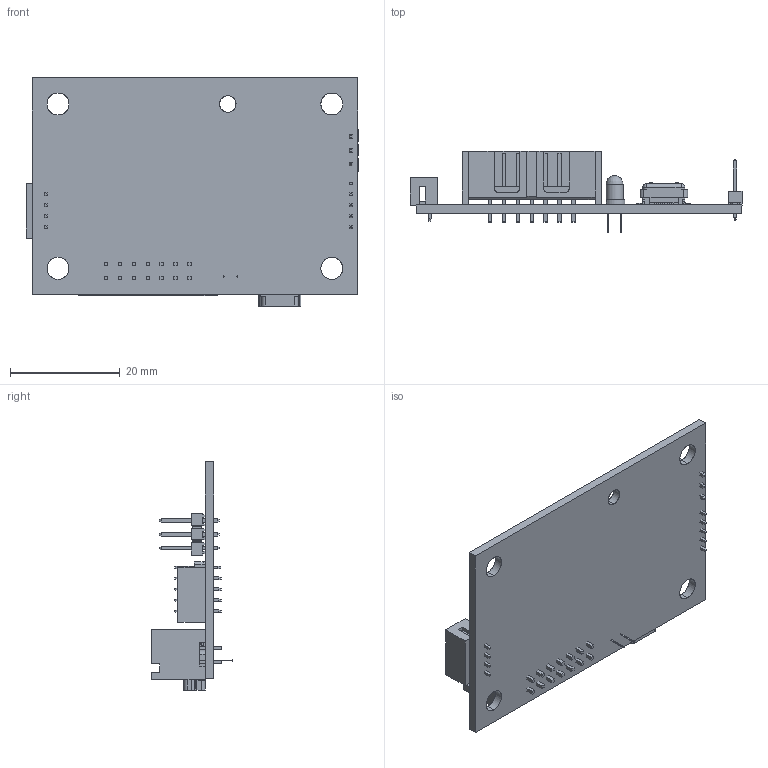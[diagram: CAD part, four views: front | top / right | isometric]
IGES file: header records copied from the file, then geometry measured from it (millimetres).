
Start section: SolidWorks IGES file using analytic representation for surfaces
Global section: file name: C:\Users\IEUser\Dropbox\Arcus\Project #27 ACE Drawings\ACE-SDC-V3\CSu files\solidworks files\ACE-SDC-V3.IGS; native system: SolidWorks 2008; preprocessor: SolidWorks 2008; author: IEUser; date: 140828.233807; units: millimetre
Bounding box: 60.62 x 14.86 x 41.65 mm (x, y, z)
Surface area: 7948 mm2 (no closed solid volume)
Topology: 0 solids, 0 shells, 1022 faces, 6652 edges, 6650 vertices
Faces by surface type: bspline 860, revolution 162
